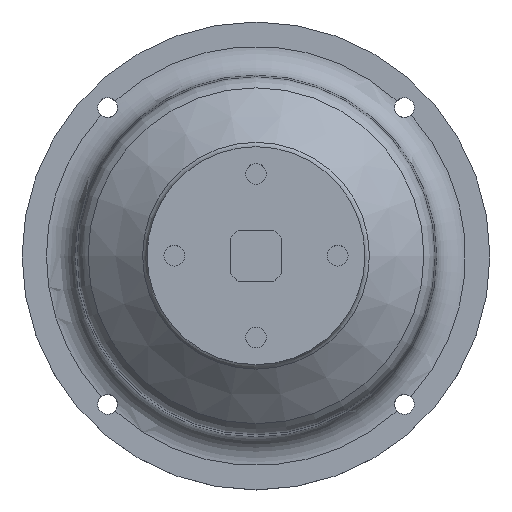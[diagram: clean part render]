
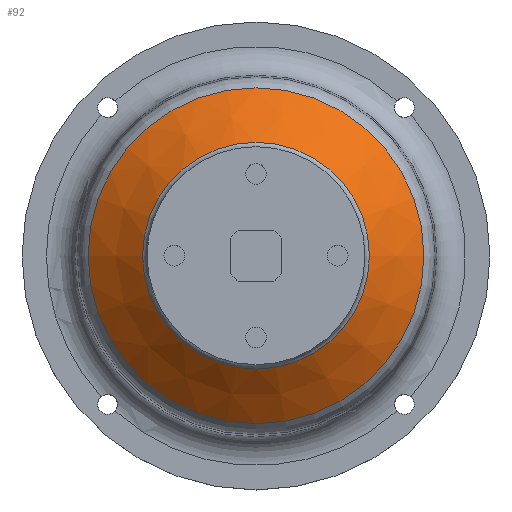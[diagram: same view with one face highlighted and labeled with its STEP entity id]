
A CAD part, top view. The second image highlights one B-rep face of the part: STEP entity #92.
In plain terms, the highlighted conical face has half-angle 49 degrees and reference radius 26.199 mm.
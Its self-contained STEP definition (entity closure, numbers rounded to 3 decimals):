
#92 = ADVANCED_FACE( '', ( #225, #226 ), #227, .T. );
#225 = FACE_BOUND( '', #422, .T. );
#226 = FACE_OUTER_BOUND( '', #423, .T. );
#227 = CONICAL_SURFACE( '', #424, 26.199, 0.855 );
#422 = EDGE_LOOP( '', ( #648 ) );
#423 = EDGE_LOOP( '', ( #649 ) );
#424 = AXIS2_PLACEMENT_3D( '', #650, #651, #652 );
#648 = ORIENTED_EDGE( '', *, *, #980, .T. );
#649 = ORIENTED_EDGE( '', *, *, #981, .F. );
#650 = CARTESIAN_POINT( '', ( 0., 0., 10.092 ) );
#651 = DIRECTION( '', ( 0., 0., -1. ) );
#652 = DIRECTION( '', ( -1., 0., 0. ) );
#980 = EDGE_CURVE( '', #1137, #1137, #1138, .T. );
#981 = EDGE_CURVE( '', #1139, #1139, #1140, .T. );
#1137 = VERTEX_POINT( '', #1373 );
#1138 = CIRCLE( '', #1374, 17.688 );
#1139 = VERTEX_POINT( '', #1375 );
#1140 = CIRCLE( '', #1376, 26.199 );
#1373 = CARTESIAN_POINT( '', ( -17.688, 0., 17.491 ) );
#1374 = AXIS2_PLACEMENT_3D( '', #1665, #1666, #1667 );
#1375 = CARTESIAN_POINT( '', ( -26.199, 0., 10.092 ) );
#1376 = AXIS2_PLACEMENT_3D( '', #1668, #1669, #1670 );
#1665 = CARTESIAN_POINT( '', ( 0., 0., 17.491 ) );
#1666 = DIRECTION( '', ( 0., 0., -1. ) );
#1667 = DIRECTION( '', ( -1., 0., 0. ) );
#1668 = CARTESIAN_POINT( '', ( 0., 0., 10.092 ) );
#1669 = DIRECTION( '', ( 0., 0., -1. ) );
#1670 = DIRECTION( '', ( -1., 0., 0. ) );
